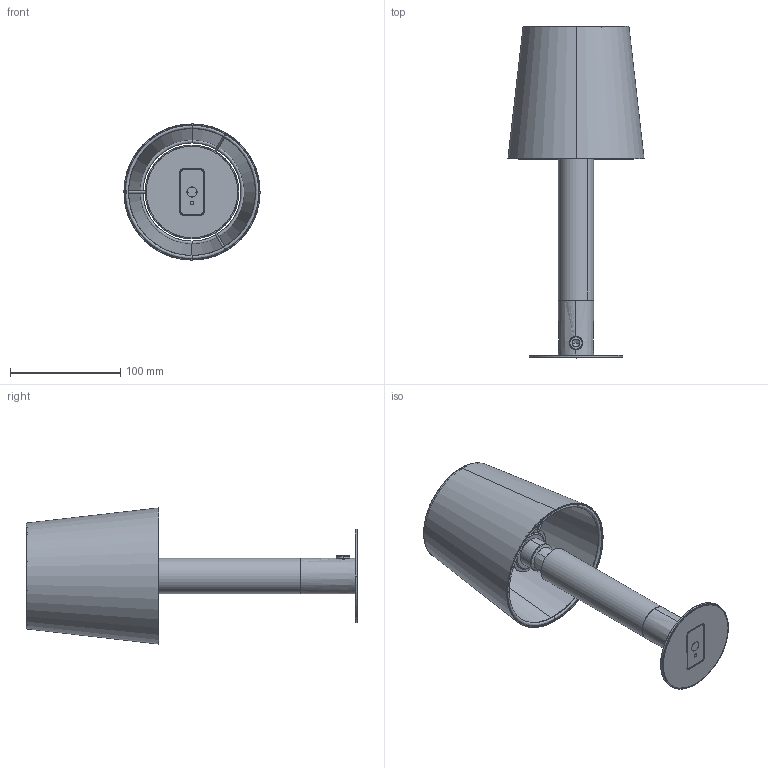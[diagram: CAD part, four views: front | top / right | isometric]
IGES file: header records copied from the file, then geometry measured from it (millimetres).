
Start section: SolidWorks IGES file using analytic representation for surfaces
Global section: file name: C:\SANTACOLE_PDM\Proyectos Catálogo\PROD-P13-064 -- BÁSICA MÍNIMA\6_Técnico comercial\3D\Basica Minima.IGS; native system: SolidWorks 2019; preprocessor: SolidWorks 2019; author: aina.morell; date: 200401.185701; units: millimetre
Bounding box: 123.5 x 300.99 x 123.5 mm (x, y, z)
Surface area: 159377.7 mm2 (no closed solid volume)
Topology: 0 solids, 0 shells, 553 faces, 5907 edges, 5902 vertices
Faces by surface type: revolution 366, bspline 187
